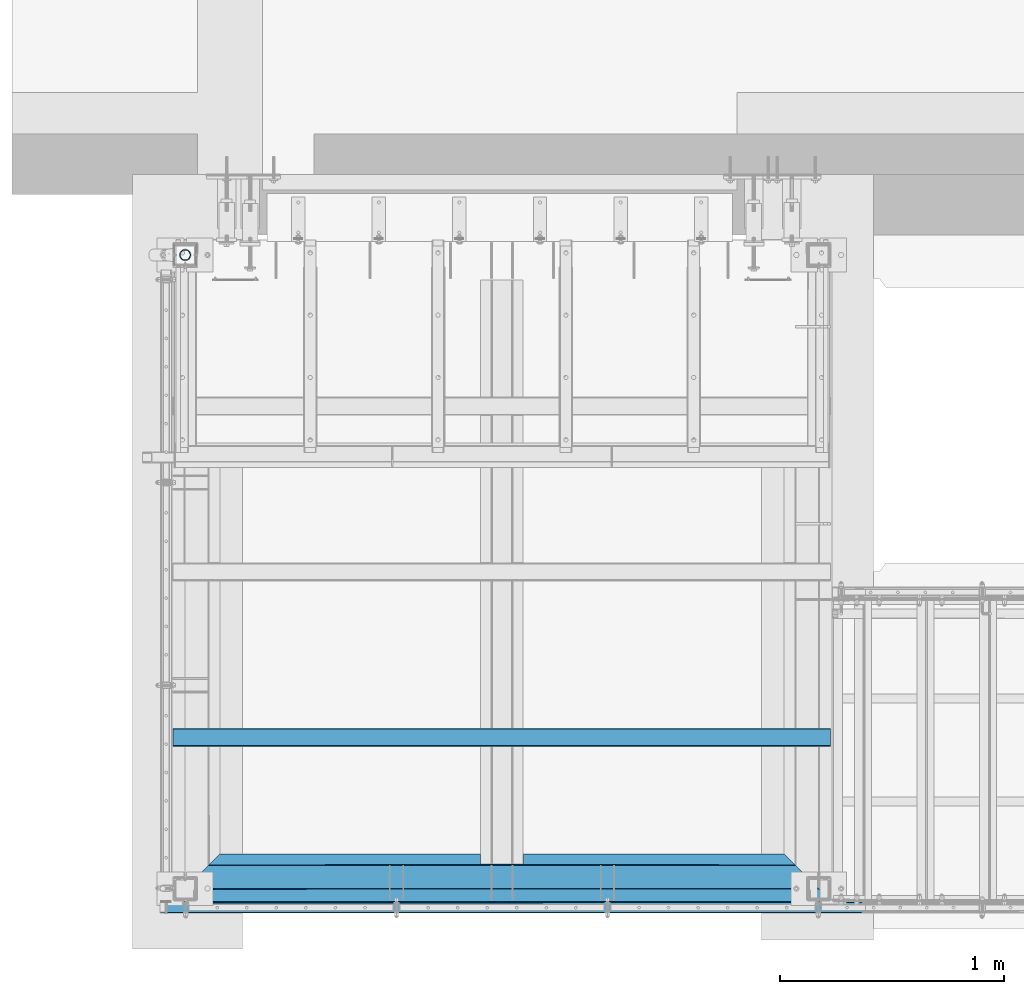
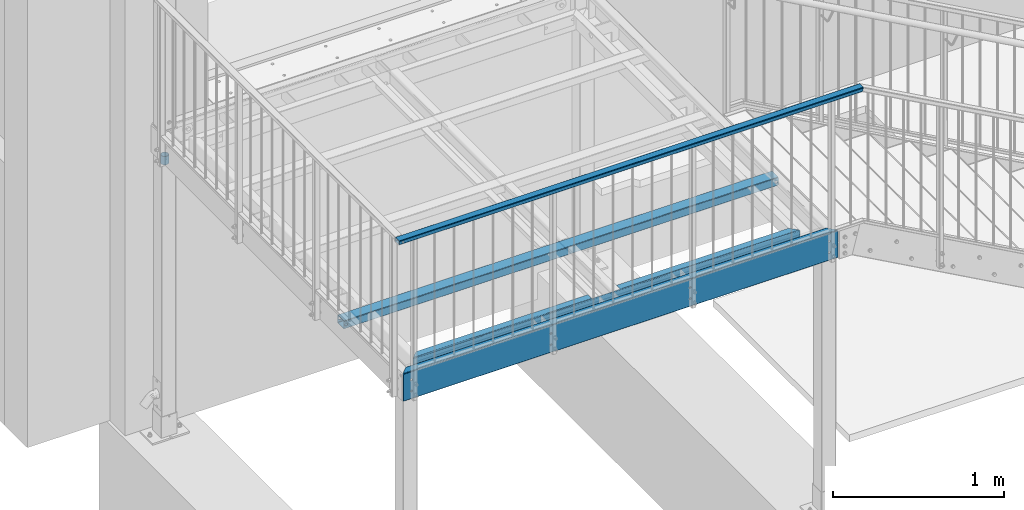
# One storey, part 8 of 116: 3 beams, 1 column, 41 openings.
"""IFC2X3 building model written with IfcOpenShell, lengths in millimetres."""

from ifc_helpers import new_model, entity, si_unit, converted_unit, point, frame, frame_2d, origin, origin_with_axes, origin_2d, place, context, project, spatial, polyline, circle_curve, line_curve, trimmed, segment, composite_curve, hollow_rectangle, circle, hollow_circle, outline, extrude, clip, halfspace, material, element, save


model = new_model("IFC2X3")

# Units and contexts
model_context = context("Model", 3, precision=1e-09, world=origin_with_axes())
ifc_project = project(units=[si_unit("LENGTHUNIT", "METRE", prefix="MILLI"), si_unit("AREAUNIT", "SQUARE_METRE"), si_unit("VOLUMEUNIT", "CUBIC_METRE"), converted_unit("PLANEANGLEUNIT", "DEGREE", entity("IfcPlaneAngleMeasure", 0.01745329), si_unit("PLANEANGLEUNIT", "RADIAN"), dimensions=[0, 0, 0, 0, 0, 0, 0])], contexts=[model_context])

# Site, building, storey
site_placement = place(None, origin_with_axes())
site = spatial("IfcSite", under=ifc_project, at=site_placement, Name="Site", CompositionType="ELEMENT")
building_placement = place(site_placement, origin_with_axes())
building = spatial("IfcBuilding", under=site, at=building_placement, Name="Struktur 1", CompositionType="ELEMENT")
storey_placement = place(building_placement, origin_with_axes())
storey = spatial("IfcBuildingStorey", under=building, at=storey_placement, Name="Default Storey", CompositionType="ELEMENT", Elevation=0.0)

# Column
ifc_material_1 = material(Name="S235JR")
column_placement = place(None, frame((55337.049134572, 11962.358883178, -205.0), z_axis=(0.0, 0.0, 1.0), x_axis=(0.0, 1.0, 0.0)))
element("IfcColumn", 1, at=column_placement, inside=storey, material=ifc_material_1, Name="-", ObjectType="-", context=model_context, shape_type="SweptSolid", body=[
    extrude(hollow_circle(Radius=24.15, WallThickness=2.0, at=origin_2d()), origin(), (0.0, 0.0, -1.0), 60.0),
])

# Beam, openings
beam_1_placement = place(None, frame((55227.049134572, 9047.359883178, 980.0), z_axis=(-1.0, 0.0, 0.0), x_axis=(0.0, 0.0, -1.0)))
beam_1 = element("IfcBeam", 2, at=beam_1_placement, inside=storey, material=ifc_material_1, Name="-", ObjectType="-", context=model_context, shape_type="Clipping", body=[
    clip(extrude(hollow_rectangle(XDim=30.0, YDim=50.0, WallThickness=3.0, InnerFilletRadius=3.0, OuterFilletRadius=6.0, at=origin_2d()), origin(), (0.0, 0.0, -1.0), 3165.817661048), halfspace(frame((15051.702041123, 9047.359883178, 752.398379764), z_axis=(-0.250106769, 0.0, 0.968218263), x_axis=(0.0, 1.0, 0.0)), True)),
])
opening_1_placement = place(beam_1_placement, frame((15.5, 0.0, -103.0), z_axis=(-1.0, 0.0, 0.0), x_axis=(0.0, 1.0, 0.0)))
element("IfcOpeningElement", 3, at=opening_1_placement, cuts=beam_1, ObjectType="Opening", context=model_context, shape_type="SweptSolid", body=[
    extrude(circle(Radius=5.001, at=frame_2d((0.0, 9.0), x_axis=(1.0, 0.0))), origin(), (0.0, 0.0, 1.0), 4.0),
])
opening_2_placement = place(beam_1_placement, frame((15.5, -5.001, -2938.0), z_axis=(1.0, 0.0, 0.0), x_axis=(0.0, 1.0, 0.0)))
element("IfcOpeningElement", 4, at=opening_2_placement, cuts=beam_1, ObjectType="Opening", context=model_context, shape_type="SweptSolid", body=[
    extrude(circle(Radius=5.001, at=frame_2d((5.001, 0.0), x_axis=(1.0, 0.0))), origin(), (0.0, 0.0, -1.0), 4.0),
])
opening_3_placement = place(beam_1_placement, frame((15.5, 0.0, -1045.0), z_axis=(-1.0, 0.0, 0.0), x_axis=(0.0, 1.0, 0.0)))
element("IfcOpeningElement", 5, at=opening_3_placement, cuts=beam_1, ObjectType="Opening", context=model_context, shape_type="SweptSolid", body=[
    extrude(circle(Radius=5.001, at=frame_2d((0.0, 9.0), x_axis=(1.0, 0.0))), origin(), (0.0, 0.0, 1.0), 4.0),
])
opening_4_placement = place(beam_1_placement, frame((15.5, 0.0, -1987.0), z_axis=(-1.0, 0.0, 0.0), x_axis=(0.0, 1.0, 0.0)))
element("IfcOpeningElement", 6, at=opening_4_placement, cuts=beam_1, ObjectType="Opening", context=model_context, shape_type="SweptSolid", body=[
    extrude(circle(Radius=5.001, at=frame_2d((0.0, 9.0), x_axis=(1.0, 0.0))), origin(), (0.0, 0.0, 1.0), 4.0),
])
opening_5_placement = place(beam_1_placement, frame((0.0, 21.5, -30.001), z_axis=(0.0, -1.0, 0.0), x_axis=(1.0, 0.0, 0.0)))
element("IfcOpeningElement", 7, at=opening_5_placement, cuts=beam_1, ObjectType="Opening", context=model_context, shape_type="SweptSolid", body=[
    extrude(circle(Radius=5.001, at=frame_2d((0.0, 5.001), x_axis=(1.0, 0.0))), origin(), (0.0, 0.0, -1.0), 4.0),
])
opening_6_placement = place(beam_1_placement, frame((0.0, -25.5, -30.001), z_axis=(0.0, -1.0, 0.0), x_axis=(1.0, 0.0, 0.0)))
element("IfcOpeningElement", 8, at=opening_6_placement, cuts=beam_1, ObjectType="Opening", context=model_context, shape_type="SweptSolid", body=[
    extrude(circle(Radius=5.001, at=frame_2d((0.0, 5.001), x_axis=(1.0, 0.0))), origin(), (0.0, 0.0, -1.0), 4.0),
])
opening_7_placement = place(beam_1_placement, frame((11.5, -6.051, -253.0), z_axis=(-1.0, 0.0, 0.0), x_axis=(0.0, -1.0, 0.0)))
element("IfcOpeningElement", 9, at=opening_7_placement, cuts=beam_1, ObjectType="Opening", context=model_context, shape_type="SweptSolid", body=[
    extrude(circle(Radius=6.051, at=frame_2d((-6.051, 0.0), x_axis=(1.0, 0.0))), origin(), (0.0, 0.0, -1.0), 4.0),
])
opening_8_placement = place(beam_1_placement, frame((11.5, -6.051, -385.0), z_axis=(-1.0, 0.0, 0.0), x_axis=(0.0, -1.0, 0.0)))
element("IfcOpeningElement", 10, at=opening_8_placement, cuts=beam_1, ObjectType="Opening", context=model_context, shape_type="SweptSolid", body=[
    extrude(circle(Radius=6.051, at=frame_2d((-6.051, 0.0), x_axis=(1.0, 0.0))), origin(), (0.0, 0.0, -1.0), 4.0),
])
opening_9_placement = place(beam_1_placement, frame((11.5, -6.051, -517.0), z_axis=(-1.0, 0.0, 0.0), x_axis=(0.0, -1.0, 0.0)))
element("IfcOpeningElement", 11, at=opening_9_placement, cuts=beam_1, ObjectType="Opening", context=model_context, shape_type="SweptSolid", body=[
    extrude(circle(Radius=6.051, at=frame_2d((-6.051, 0.0), x_axis=(1.0, 0.0))), origin(), (0.0, 0.0, -1.0), 4.0),
])
opening_10_placement = place(beam_1_placement, frame((11.5, -6.051, -649.0), z_axis=(-1.0, 0.0, 0.0), x_axis=(0.0, -1.0, 0.0)))
element("IfcOpeningElement", 12, at=opening_10_placement, cuts=beam_1, ObjectType="Opening", context=model_context, shape_type="SweptSolid", body=[
    extrude(circle(Radius=6.051, at=frame_2d((-6.051, 0.0), x_axis=(1.0, 0.0))), origin(), (0.0, 0.0, -1.0), 4.0),
])
opening_11_placement = place(beam_1_placement, frame((11.5, -6.051, -781.0), z_axis=(-1.0, 0.0, 0.0), x_axis=(0.0, -1.0, 0.0)))
element("IfcOpeningElement", 13, at=opening_11_placement, cuts=beam_1, ObjectType="Opening", context=model_context, shape_type="SweptSolid", body=[
    extrude(circle(Radius=6.051, at=frame_2d((-6.051, 0.0), x_axis=(1.0, 0.0))), origin(), (0.0, 0.0, -1.0), 4.0),
])
opening_12_placement = place(beam_1_placement, frame((11.5, -6.051, -913.0), z_axis=(-1.0, 0.0, 0.0), x_axis=(0.0, -1.0, 0.0)))
element("IfcOpeningElement", 14, at=opening_12_placement, cuts=beam_1, ObjectType="Opening", context=model_context, shape_type="SweptSolid", body=[
    extrude(circle(Radius=6.051, at=frame_2d((-6.051, 0.0), x_axis=(1.0, 0.0))), origin(), (0.0, 0.0, -1.0), 4.0),
])
opening_13_placement = place(beam_1_placement, frame((11.5, -6.051, -1855.0), z_axis=(-1.0, 0.0, 0.0), x_axis=(0.0, -1.0, 0.0)))
element("IfcOpeningElement", 15, at=opening_13_placement, cuts=beam_1, ObjectType="Opening", context=model_context, shape_type="SweptSolid", body=[
    extrude(circle(Radius=6.051, at=frame_2d((-6.051, 0.0), x_axis=(1.0, 0.0))), origin(), (0.0, 0.0, -1.0), 4.0),
])
opening_14_placement = place(beam_1_placement, frame((11.5, -6.051, -1723.0), z_axis=(-1.0, 0.0, 0.0), x_axis=(0.0, -1.0, 0.0)))
element("IfcOpeningElement", 16, at=opening_14_placement, cuts=beam_1, ObjectType="Opening", context=model_context, shape_type="SweptSolid", body=[
    extrude(circle(Radius=6.051, at=frame_2d((-6.051, 0.0), x_axis=(1.0, 0.0))), origin(), (0.0, 0.0, -1.0), 4.0),
])
opening_15_placement = place(beam_1_placement, frame((11.5, -6.051, -1591.0), z_axis=(-1.0, 0.0, 0.0), x_axis=(0.0, -1.0, 0.0)))
element("IfcOpeningElement", 17, at=opening_15_placement, cuts=beam_1, ObjectType="Opening", context=model_context, shape_type="SweptSolid", body=[
    extrude(circle(Radius=6.051, at=frame_2d((-6.051, 0.0), x_axis=(1.0, 0.0))), origin(), (0.0, 0.0, -1.0), 4.0),
])
opening_16_placement = place(beam_1_placement, frame((11.5, -6.051, -1459.0), z_axis=(-1.0, 0.0, 0.0), x_axis=(0.0, -1.0, 0.0)))
element("IfcOpeningElement", 18, at=opening_16_placement, cuts=beam_1, ObjectType="Opening", context=model_context, shape_type="SweptSolid", body=[
    extrude(circle(Radius=6.051, at=frame_2d((-6.051, 0.0), x_axis=(1.0, 0.0))), origin(), (0.0, 0.0, -1.0), 4.0),
])
opening_17_placement = place(beam_1_placement, frame((11.5, -6.051, -1327.0), z_axis=(-1.0, 0.0, 0.0), x_axis=(0.0, -1.0, 0.0)))
element("IfcOpeningElement", 19, at=opening_17_placement, cuts=beam_1, ObjectType="Opening", context=model_context, shape_type="SweptSolid", body=[
    extrude(circle(Radius=6.051, at=frame_2d((-6.051, 0.0), x_axis=(1.0, 0.0))), origin(), (0.0, 0.0, -1.0), 4.0),
])
opening_18_placement = place(beam_1_placement, frame((11.5, -6.051, -1195.0), z_axis=(-1.0, 0.0, 0.0), x_axis=(0.0, -1.0, 0.0)))
element("IfcOpeningElement", 20, at=opening_18_placement, cuts=beam_1, ObjectType="Opening", context=model_context, shape_type="SweptSolid", body=[
    extrude(circle(Radius=6.051, at=frame_2d((-6.051, 0.0), x_axis=(1.0, 0.0))), origin(), (0.0, 0.0, -1.0), 4.0),
])
opening_19_placement = place(beam_1_placement, frame((11.5, -6.051, -2137.0), z_axis=(-1.0, 0.0, 0.0), x_axis=(0.0, -1.0, 0.0)))
element("IfcOpeningElement", 21, at=opening_19_placement, cuts=beam_1, ObjectType="Opening", context=model_context, shape_type="SweptSolid", body=[
    extrude(circle(Radius=6.051, at=frame_2d((-6.051, 0.0), x_axis=(1.0, 0.0))), origin(), (0.0, 0.0, -1.0), 4.0),
])
opening_20_placement = place(beam_1_placement, frame((11.5, -6.051, -2269.0), z_axis=(-1.0, 0.0, 0.0), x_axis=(0.0, -1.0, 0.0)))
element("IfcOpeningElement", 22, at=opening_20_placement, cuts=beam_1, ObjectType="Opening", context=model_context, shape_type="SweptSolid", body=[
    extrude(circle(Radius=6.051, at=frame_2d((-6.051, 0.0), x_axis=(1.0, 0.0))), origin(), (0.0, 0.0, -1.0), 4.0),
])
opening_21_placement = place(beam_1_placement, frame((11.5, -6.051, -2401.0), z_axis=(-1.0, 0.0, 0.0), x_axis=(0.0, -1.0, 0.0)))
element("IfcOpeningElement", 23, at=opening_21_placement, cuts=beam_1, ObjectType="Opening", context=model_context, shape_type="SweptSolid", body=[
    extrude(circle(Radius=6.051, at=frame_2d((-6.051, 0.0), x_axis=(1.0, 0.0))), origin(), (0.0, 0.0, -1.0), 4.0),
])
opening_22_placement = place(beam_1_placement, frame((11.5, -6.051, -2533.0), z_axis=(-1.0, 0.0, 0.0), x_axis=(0.0, -1.0, 0.0)))
element("IfcOpeningElement", 24, at=opening_22_placement, cuts=beam_1, ObjectType="Opening", context=model_context, shape_type="SweptSolid", body=[
    extrude(circle(Radius=6.051, at=frame_2d((-6.051, 0.0), x_axis=(1.0, 0.0))), origin(), (0.0, 0.0, -1.0), 4.0),
])
opening_23_placement = place(beam_1_placement, frame((11.5, -6.051, -2665.0), z_axis=(-1.0, 0.0, 0.0), x_axis=(0.0, -1.0, 0.0)))
element("IfcOpeningElement", 25, at=opening_23_placement, cuts=beam_1, ObjectType="Opening", context=model_context, shape_type="SweptSolid", body=[
    extrude(circle(Radius=6.051, at=frame_2d((-6.051, 0.0), x_axis=(1.0, 0.0))), origin(), (0.0, 0.0, -1.0), 4.0),
])
opening_24_placement = place(beam_1_placement, frame((11.5, -6.051, -2797.0), z_axis=(-1.0, 0.0, 0.0), x_axis=(0.0, -1.0, 0.0)))
element("IfcOpeningElement", 26, at=opening_24_placement, cuts=beam_1, ObjectType="Opening", context=model_context, shape_type="SweptSolid", body=[
    extrude(circle(Radius=6.051, at=frame_2d((-6.051, 0.0), x_axis=(1.0, 0.0))), origin(), (0.0, 0.0, -1.0), 4.0),
])
opening_25_placement = place(beam_1_placement, frame((11.5, -6.051, -3066.0), z_axis=(-1.0, 0.0, 0.0), x_axis=(0.0, -1.0, 0.0)))
element("IfcOpeningElement", 27, at=opening_25_placement, cuts=beam_1, ObjectType="Opening", context=model_context, shape_type="SweptSolid", body=[
    extrude(circle(Radius=6.051, at=frame_2d((-6.051, 0.0), x_axis=(1.0, 0.0))), origin(), (0.0, 0.0, -1.0), 4.0),
])

beam_2_placement = place(None, frame((55283.549134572, 9807.358883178, -78.0), z_axis=(-1.0, 0.0, 0.0), x_axis=(0.0, 0.0, -1.0)))
beam_2 = element("IfcBeam", 28, at=beam_2_placement, inside=storey, material=ifc_material_1, Name="-", ObjectType="-", context=model_context, shape_type="SweptSolid", body=[
    extrude(hollow_rectangle(XDim=60.0, YDim=80.0, WallThickness=4.0, InnerFilletRadius=4.0, OuterFilletRadius=8.0, at=origin_2d()), origin(), (0.0, 0.0, -1.0), 2937.0),
])
opening_26_placement = place(beam_2_placement, frame((0.0, 35.5, 0.0), z_axis=(0.0, 1.0, 0.0), x_axis=(0.0, 0.0, -1.0)))
element("IfcOpeningElement", 29, at=opening_26_placement, cuts=beam_2, ObjectType="Opening", context=model_context, shape_type="SweptSolid", body=[
    extrude(circle(Radius=10.001, at=frame_2d((15.0, 0.0), x_axis=(1.0, 0.0))), origin(), (0.0, 0.0, 1.0), 5.0),
])
opening_27_placement = place(beam_2_placement, frame((0.0, -35.5, -4.999), z_axis=(0.0, 1.0, 0.0), x_axis=(-1.0, 0.0, 0.0)))
element("IfcOpeningElement", 30, at=opening_27_placement, cuts=beam_2, ObjectType="Opening", context=model_context, shape_type="SweptSolid", body=[
    extrude(circle(Radius=10.001, at=frame_2d((0.0, -10.001), x_axis=(1.0, 0.0))), origin(), (0.0, 0.0, -1.0), 5.0),
])
opening_28_placement = place(beam_2_placement, frame((0.0, -35.5, -2937.0), z_axis=(0.0, -1.0, 0.0), x_axis=(0.0, 0.0, 1.0)))
element("IfcOpeningElement", 31, at=opening_28_placement, cuts=beam_2, ObjectType="Opening", context=model_context, shape_type="SweptSolid", body=[
    extrude(circle(Radius=10.001, at=frame_2d((15.0, 0.0), x_axis=(1.0, 0.0))), origin(), (0.0, 0.0, 1.0), 5.0),
])
opening_29_placement = place(beam_2_placement, frame((0.0, 35.5, -2932.001), z_axis=(0.0, -1.0, 0.0), x_axis=(1.0, 0.0, 0.0)))
element("IfcOpeningElement", 32, at=opening_29_placement, cuts=beam_2, ObjectType="Opening", context=model_context, shape_type="SweptSolid", body=[
    extrude(circle(Radius=10.001, at=frame_2d((0.0, 10.001), x_axis=(1.0, 0.0))), origin(), (0.0, 0.0, -1.0), 5.0),
])

ifc_material_2 = material(Name="S355JR")
beam_3_placement = place(None, frame((58624.085135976, 9179.858883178, -105.0), z_axis=(1.0, 0.0, 0.0), x_axis=(0.0, 1.0, 0.0)))
beam_3 = element("IfcBeam", 33, at=beam_3_placement, inside=storey, material=ifc_material_2, Name="-", ObjectType="-", context=model_context, shape_type="Clipping", body=[
    clip(clip(extrude(outline(composite_curve([segment(trimmed(line_curve((-47.5, 60.0), (0.0, 1.0), 31.0), [point((-47.5, 60.0))], [point((-47.5, 91.0))], True, "CARTESIAN"), True, "CONTINUOUS"), segment(trimmed(circle_curve(frame_2d((-56.500000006, 90.999999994), x_axis=(1.0, 0.0)), 9.000000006), [point((-47.5, 91.0))], [point((-56.5, 100.0))], True, "CARTESIAN"), True, "CONTINUOUS"), segment(trimmed(line_curve((-56.5, 100.0), (-1.0, 0.0), 42.0), [point((-56.5, 100.0))], [point((-98.5, 100.0))], True, "CARTESIAN"), True, "CONTINUOUS"), segment(trimmed(circle_curve(frame_2d((-98.499999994, 90.999999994), x_axis=(1.0, 0.0)), 9.000000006), [point((-98.5, 100.0))], [point((-107.5, 91.0))], True, "CARTESIAN"), True, "CONTINUOUS"), segment(trimmed(line_curve((-107.5, 91.0), (0.0, -1.0), 182.0), [point((-107.5, 91.0))], [point((-107.5, -91.0))], True, "CARTESIAN"), True, "CONTINUOUS"), segment(trimmed(circle_curve(frame_2d((-98.499999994, -90.999999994), x_axis=(1.0, 0.0)), 9.000000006), [point((-107.5, -91.0))], [point((-98.5, -100.0))], True, "CARTESIAN"), True, "CONTINUOUS"), segment(trimmed(line_curve((-98.5, -100.0), (1.0, 0.0), 152.0), [point((-98.5, -100.0))], [point((53.5, -100.0))], True, "CARTESIAN"), True, "CONTINUOUS"), segment(trimmed(circle_curve(frame_2d((53.499999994, -90.999999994), x_axis=(1.0, 0.0)), 9.000000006), [point((53.5, -100.0))], [point((62.5, -91.0))], True, "CARTESIAN"), True, "CONTINUOUS"), segment(trimmed(line_curve((62.5, -91.0), (0.0, 1.0), 139.0), [point((62.5, -91.0))], [point((62.5, 48.0))], True, "CARTESIAN"), True, "CONTINUOUS"), segment(trimmed(circle_curve(frame_2d((66.500000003, 47.999999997), x_axis=(-1.0, 0.0)), 4.000000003), [point((62.5, 48.0))], [point((66.5, 52.0))], False, "CARTESIAN"), True, "CONTINUOUS"), segment(trimmed(line_curve((66.5, 52.0), (1.0, 0.0), 41.0), [point((66.5, 52.0))], [point((107.5, 52.0))], True, "CARTESIAN"), True, "CONTINUOUS"), segment(trimmed(line_curve((107.5, 52.0), (0.0, 1.0), 5.0), [point((107.5, 52.0))], [point((107.5, 57.0))], True, "CARTESIAN"), True, "CONTINUOUS"), segment(trimmed(line_curve((107.5, 57.0), (-1.0, 0.0), 41.0), [point((107.5, 57.0))], [point((66.5, 57.0))], True, "CARTESIAN"), True, "CONTINUOUS"), segment(trimmed(circle_curve(frame_2d((66.500000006, 47.999999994), x_axis=(1.0, 0.0)), 9.000000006), [point((66.5, 57.0))], [point((57.5, 48.0))], True, "CARTESIAN"), True, "CONTINUOUS"), segment(trimmed(line_curve((57.5, 48.0), (0.0, -1.0), 139.0), [point((57.5, 48.0))], [point((57.5, -91.0))], True, "CARTESIAN"), True, "CONTINUOUS"), segment(trimmed(circle_curve(frame_2d((53.499999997, -90.999999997), x_axis=(-1.0, 0.0)), 4.000000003), [point((57.5, -91.0))], [point((53.5, -95.0))], False, "CARTESIAN"), True, "CONTINUOUS"), segment(trimmed(line_curve((53.5, -95.0), (-1.0, 0.0), 152.0), [point((53.5, -95.0))], [point((-98.5, -95.0))], True, "CARTESIAN"), True, "CONTINUOUS"), segment(trimmed(circle_curve(frame_2d((-98.499999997, -90.999999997), x_axis=(-1.0, 0.0)), 4.000000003), [point((-98.5, -95.0))], [point((-102.5, -91.0))], False, "CARTESIAN"), True, "CONTINUOUS"), segment(trimmed(line_curve((-102.5, -91.0), (0.0, 1.0), 182.0), [point((-102.5, -91.0))], [point((-102.5, 91.0))], True, "CARTESIAN"), True, "CONTINUOUS"), segment(trimmed(circle_curve(frame_2d((-98.499999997, 90.999999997), x_axis=(-1.0, 0.0)), 4.000000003), [point((-102.5, 91.0))], [point((-98.5, 95.0))], False, "CARTESIAN"), True, "CONTINUOUS"), segment(trimmed(line_curve((-98.5, 95.0), (1.0, 0.0), 42.0), [point((-98.5, 95.0))], [point((-56.5, 95.0))], True, "CARTESIAN"), True, "CONTINUOUS"), segment(trimmed(circle_curve(frame_2d((-56.500000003, 90.999999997), x_axis=(-1.0, 0.0)), 4.000000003), [point((-56.5, 95.0))], [point((-52.5, 91.0))], False, "CARTESIAN"), True, "CONTINUOUS"), segment(trimmed(line_curve((-52.5, 91.0), (0.0, -1.0), 31.0), [point((-52.5, 91.0))], [point((-52.5, 60.0))], True, "CARTESIAN"), True, "CONTINUOUS"), segment(trimmed(line_curve((-52.5, 60.0), (1.0, 0.0), 5.0), [point((-52.5, 60.0))], [point((-47.5, 60.0))], True, "CARTESIAN"), True, "CONTINUOUS")], self_intersect=False)), origin(), (0.0, 0.0, -1.0), 3744.072002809), halfspace(frame((-32282.204715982, 105.0, -35521.739303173), z_axis=(-0.707106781, 0.0, 0.707106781), x_axis=(0.707106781, 0.0, 0.707106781)), True)), halfspace(frame((24469.84441859, 105.0, -24974.381834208), z_axis=(-0.707106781, 0.0, -0.707106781), x_axis=(-0.707106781, 0.0, 0.707106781)), True)),
])
opening_30_placement = place(beam_3_placement, frame((-102.500684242, -200.1, -3362.620270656), z_axis=(0.0, -1.0, 0.0), x_axis=(0.0, 0.0, 1.0)))
element("IfcOpeningElement", 34, at=opening_30_placement, cuts=beam_3, ObjectType="Opening", context=model_context, shape_type="SweptSolid", body=[
    extrude(outline(polyline([(0.0, 0.0), (20.586683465, 0.0), (20.586683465, 16.715321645), (0.0, 16.715321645), (0.0, 0.0)])), origin(), (0.0, 0.0, -1.0), 400.2),
])
opening_31_placement = place(beam_3_placement, frame((-110.858345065, -200.1, -391.745073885), z_axis=(0.0, 1.0, 0.0), x_axis=(0.0, 0.0, -1.0)))
element("IfcOpeningElement", 35, at=opening_31_placement, cuts=beam_3, ObjectType="Opening", context=model_context, shape_type="SweptSolid", body=[
    extrude(outline(polyline([(-10.293341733, -8.357660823), (10.293341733, -8.357660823), (10.293341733, 8.357660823), (-10.293341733, 8.357660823), (-10.293341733, -8.357660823)])), origin(), (0.0, 0.0, 1.0), 400.2),
])
opening_32_placement = place(beam_3_placement, frame((127.501, -200.1, -1968.037001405), z_axis=(0.0, -1.0, 0.0), x_axis=(0.0, 0.0, 1.0)))
element("IfcOpeningElement", 36, at=opening_32_placement, cuts=beam_3, ObjectType="Opening", context=model_context, shape_type="SweptSolid", body=[
    extrude(outline(polyline([(0.0, 0.0), (192.002, 0.0), (192.002, 64.997), (0.0, 64.997), (0.0, 0.0)])), origin(), (0.0, 0.0, -1.0), 400.2),
])
opening_33_placement = place(beam_3_placement, frame((63.0, -43.0, -1872.036001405), z_axis=(-1.0, 0.0, 0.0), x_axis=(0.0, 0.0, 1.0)))
element("IfcOpeningElement", 37, at=opening_33_placement, cuts=beam_3, ObjectType="Opening", context=model_context, shape_type="SweptSolid", body=[
    extrude(outline(composite_curve([segment(trimmed(line_curve((-20.0, 4.999), (1.0, 0.0), 40.0), [point((-20.0, 4.999))], [point((20.0, 4.999))], True, "CARTESIAN"), True, "CONTINUOUS"), segment(trimmed(circle_curve(frame_2d((20.0, 15.0), x_axis=(1.0, 0.0)), 10.001), [point((20.0, 4.999))], [point((20.0, 25.001))], True, "CARTESIAN"), True, "CONTINUOUS"), segment(trimmed(line_curve((20.0, 25.001), (-1.0, 0.0), 40.0), [point((20.0, 25.001))], [point((-20.0, 25.001))], True, "CARTESIAN"), True, "CONTINUOUS"), segment(trimmed(circle_curve(frame_2d((-20.0, 15.0), x_axis=(1.0, 0.0)), 10.001), [point((-20.0, 25.001))], [point((-20.0, 4.999))], True, "CARTESIAN"), True, "CONTINUOUS")], self_intersect=False)), origin(), (0.0, 0.0, 1.0), 6.0),
])
opening_34_placement = place(beam_3_placement, frame((-108.0, 40.0, -2350.037001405), z_axis=(-1.0, 0.0, 0.0), x_axis=(0.0, -1.0, 0.0)))
element("IfcOpeningElement", 38, at=opening_34_placement, cuts=beam_3, ObjectType="Opening", context=model_context, shape_type="SweptSolid", body=[
    extrude(circle(Radius=7.001, at=frame_2d((0.0, 7.001), x_axis=(1.0, 0.0))), origin(), (0.0, 0.0, -1.0), 6.0),
])
opening_35_placement = place(beam_3_placement, frame((-108.0, -40.0, -2350.037001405), z_axis=(-1.0, 0.0, 0.0), x_axis=(0.0, -1.0, 0.0)))
element("IfcOpeningElement", 39, at=opening_35_placement, cuts=beam_3, ObjectType="Opening", context=model_context, shape_type="SweptSolid", body=[
    extrude(circle(Radius=7.001, at=frame_2d((0.0, 7.001), x_axis=(1.0, 0.0))), origin(), (0.0, 0.0, -1.0), 6.0),
])
opening_36_placement = place(beam_3_placement, frame((-108.0, 40.0, -466.037001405), z_axis=(-1.0, 0.0, 0.0), x_axis=(0.0, -1.0, 0.0)))
element("IfcOpeningElement", 40, at=opening_36_placement, cuts=beam_3, ObjectType="Opening", context=model_context, shape_type="SweptSolid", body=[
    extrude(circle(Radius=7.001, at=frame_2d((0.0, 7.001), x_axis=(1.0, 0.0))), origin(), (0.0, 0.0, -1.0), 6.0),
])
opening_37_placement = place(beam_3_placement, frame((-108.0, -40.0, -466.037001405), z_axis=(-1.0, 0.0, 0.0), x_axis=(0.0, -1.0, 0.0)))
element("IfcOpeningElement", 41, at=opening_37_placement, cuts=beam_3, ObjectType="Opening", context=model_context, shape_type="SweptSolid", body=[
    extrude(circle(Radius=7.001, at=frame_2d((0.0, 7.001), x_axis=(1.0, 0.0))), origin(), (0.0, 0.0, -1.0), 6.0),
])
opening_38_placement = place(beam_3_placement, frame((-108.0, 40.0, -1408.037001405), z_axis=(-1.0, 0.0, 0.0), x_axis=(0.0, -1.0, 0.0)))
element("IfcOpeningElement", 42, at=opening_38_placement, cuts=beam_3, ObjectType="Opening", context=model_context, shape_type="SweptSolid", body=[
    extrude(circle(Radius=7.001, at=frame_2d((0.0, 7.001), x_axis=(1.0, 0.0))), origin(), (0.0, 0.0, -1.0), 6.0),
])
opening_39_placement = place(beam_3_placement, frame((-108.0, -40.0, -1408.037001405), z_axis=(-1.0, 0.0, 0.0), x_axis=(0.0, -1.0, 0.0)))
element("IfcOpeningElement", 43, at=opening_39_placement, cuts=beam_3, ObjectType="Opening", context=model_context, shape_type="SweptSolid", body=[
    extrude(circle(Radius=7.001, at=frame_2d((0.0, 7.001), x_axis=(1.0, 0.0))), origin(), (0.0, 0.0, -1.0), 6.0),
])
opening_40_placement = place(beam_3_placement, frame((-108.0, 40.0, -3292.037001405), z_axis=(-1.0, 0.0, 0.0), x_axis=(0.0, -1.0, 0.0)))
element("IfcOpeningElement", 44, at=opening_40_placement, cuts=beam_3, ObjectType="Opening", context=model_context, shape_type="SweptSolid", body=[
    extrude(circle(Radius=7.001, at=frame_2d((0.0, 7.001), x_axis=(1.0, 0.0))), origin(), (0.0, 0.0, -1.0), 6.0),
])
opening_41_placement = place(beam_3_placement, frame((-108.0, -40.0, -3292.037001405), z_axis=(-1.0, 0.0, 0.0), x_axis=(0.0, -1.0, 0.0)))
element("IfcOpeningElement", 45, at=opening_41_placement, cuts=beam_3, ObjectType="Opening", context=model_context, shape_type="SweptSolid", body=[
    extrude(circle(Radius=7.001, at=frame_2d((0.0, 7.001), x_axis=(1.0, 0.0))), origin(), (0.0, 0.0, -1.0), 6.0),
])

save(model, "model.ifc")
